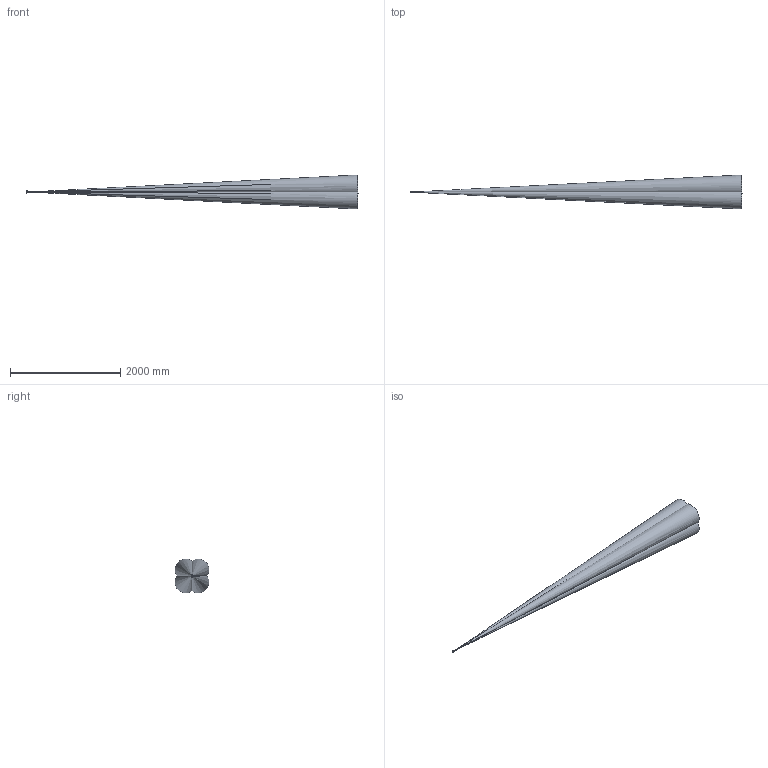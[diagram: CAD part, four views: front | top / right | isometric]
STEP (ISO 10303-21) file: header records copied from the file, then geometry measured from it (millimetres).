
FILE_DESCRIPTION(/* description */ ('Unknown'),/* implementation_level */ '2;1');
FILE_NAME(/* name */ 'O330.RP-xxxxx.72ZV_H006_with_Beam',/* time_stamp */ '2023-05-04T13:10:17+02:00',/* author */ ('Unknown'),/* organization */ ('Baumer'),/* preprocessor_version */ 'ST-DEVELOPER v16.7',/* originating_system */ 'Solid Edge',/* authorisation */ 'Unknown');
FILE_SCHEMA (('AUTOMOTIVE_DESIGN {1 0 10303 214 3 1 1}'));
Length unit declared in the file: millimetre
Products named in the file (6): O330.RP-xxxxx.72ZV_H006_with_Beam; O330.RP_Beam; O330.RP_NominalBeam; O330.RP_MaxDevBeam; O330.xP-xxxxx.72ZV_H006; O330.RP_Axis
Assembly tree (8 placements, depth 3):
  O330.RP-xxxxx.72ZV_H006_with_Beam
    O330.RP_Beam
      O330.RP_NominalBeam
      O330.RP_MaxDevBeam  x4
    O330.xP-xxxxx.72ZV_H006
    O330.RP_Axis
Bounding box: 6029.05 x 617.03 x 616.94 mm (x, y, z)
Volume: 1224487409.2 mm3; surface area: 19164241.2 mm2
Topology: 8 solids, 8 shells, 272 faces, 681 edges, 421 vertices
Faces by surface type: plane 130, cylinder 71, cone 29, bspline 24, sphere 9, torus 9
Full cylindrical faces by diameter (mm): 0.5 x2, 3.5 x1, 5 x4, 7.468 x1
Entity records: 17256 total; most frequent: CARTESIAN_POINT 8973, ORIENTED_EDGE 1258, DIRECTION 1249, EDGE_CURVE 629, AXIS2_PLACEMENT_3D 460, VERTEX_POINT 407, LINE 329, VECTOR 329
